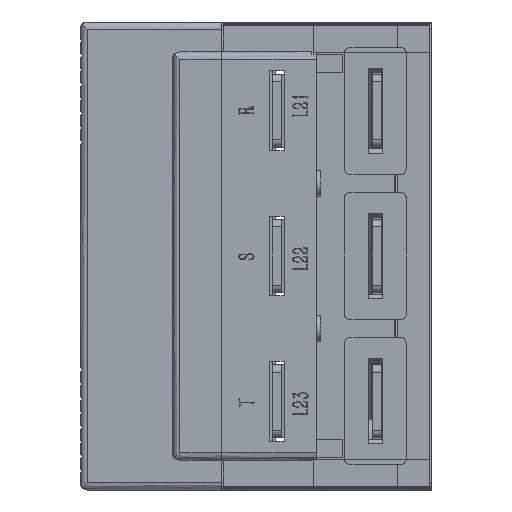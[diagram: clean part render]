
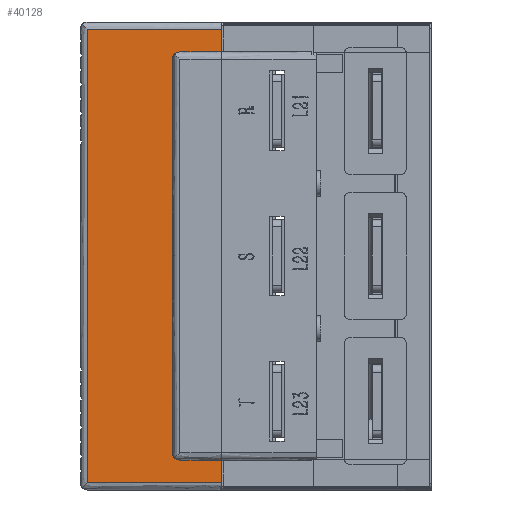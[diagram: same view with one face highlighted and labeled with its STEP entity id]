
A CAD part, left-side view. The second image highlights one B-rep face of the part: STEP entity #40128.
In plain terms, the highlighted free-form (B-spline) face has degree [1, 1] with [2, 2] control points.
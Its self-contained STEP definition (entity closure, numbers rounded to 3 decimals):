
#2814 = CARTESIAN_POINT ( 'NONE',  ( 16.5, 23., -174. ) ) ;
#3557 = CARTESIAN_POINT ( 'NONE',  ( 4., 0., -174. ) ) ;
#6722 = CARTESIAN_POINT ( 'NONE',  ( 237.5, 27., -174. ) ) ;
#8405 = CARTESIAN_POINT ( 'NONE',  ( 254., 74., -174. ) ) ;
#8713 = CARTESIAN_POINT ( 'NONE',  ( 237.5, 27., -174. ) ) ;
#8870 = EDGE_CURVE ( 'NONE', #90986, #68015, #23151, .T. ) ;
#11891 = CARTESIAN_POINT ( 'NONE',  ( 241.5, 0., -174. ) ) ;
#12903 = VERTEX_POINT ( 'NONE', #29974 ) ;
#15034 = B_SPLINE_CURVE_WITH_KNOTS ( 'NONE', 1,
 ( #61648, #11891 ),
 .UNSPECIFIED., .F., .F.,
 ( 2, 2 ),
 ( 0., 1. ),
 .UNSPECIFIED. ) ;
#15953 = EDGE_CURVE ( 'NONE', #30704, #12903, #63040, .T. ) ;
#17088 = CARTESIAN_POINT ( 'NONE',  ( 20.5, 27., -174. ) ) ;
#17854 = ORIENTED_EDGE ( 'NONE', *, *, #38567, .F. ) ;
#18997 = CARTESIAN_POINT ( 'NONE',  ( 254., 74., -174. ) ) ;
#21895 = VERTEX_POINT ( 'NONE', #35467 ) ;
#21984 = CARTESIAN_POINT ( 'NONE',  ( 4., 0., -174. ) ) ;
#23151 = B_SPLINE_CURVE_WITH_KNOTS ( 'NONE', 1,
 ( #30953, #23502 ),
 .UNSPECIFIED., .F., .F.,
 ( 2, 2 ),
 ( 0., 1. ),
 .UNSPECIFIED. ) ;
#23502 = CARTESIAN_POINT ( 'NONE',  ( 241.5, 0., -174. ) ) ;
#26345 = VERTEX_POINT ( 'NONE', #18997 ) ;
#26548 = EDGE_CURVE ( 'NONE', #26345, #33596, #29234, .T. ) ;
#26632 =( BOUNDED_CURVE ( )  B_SPLINE_CURVE ( 3, ( #8713, #51334, #37639, #87357 ),
 .UNSPECIFIED., .F., .F. ) 
 B_SPLINE_CURVE_WITH_KNOTS ( ( 4, 4 ),
 ( -1.571, 0. ),
 .UNSPECIFIED. ) 
 CURVE ( )  GEOMETRIC_REPRESENTATION_ITEM ( )  RATIONAL_B_SPLINE_CURVE ( ( 1., 0.805, 0.805, 1. ) ) 
 REPRESENTATION_ITEM ( '' )  );
#26816 = ORIENTED_EDGE ( 'NONE', *, *, #67720, .T. ) ;
#28091 = ORIENTED_EDGE ( 'NONE', *, *, #8870, .F. ) ;
#29014 = B_SPLINE_CURVE_WITH_KNOTS ( 'NONE', 1,
 ( #87404, #44877 ),
 .UNSPECIFIED., .F., .F.,
 ( 2, 2 ),
 ( 0., 1. ),
 .UNSPECIFIED. ) ;
#29168 = CARTESIAN_POINT ( 'NONE',  ( 254., 0., -174. ) ) ;
#29234 = B_SPLINE_CURVE_WITH_KNOTS ( 'NONE', 1,
 ( #8405, #72718 ),
 .UNSPECIFIED., .F., .F.,
 ( 2, 2 ),
 ( 0., 1. ),
 .UNSPECIFIED. ) ;
#29974 = CARTESIAN_POINT ( 'NONE',  ( 20.5, 27., -174. ) ) ;
#29987 = EDGE_CURVE ( 'NONE', #71458, #90986, #26632, .T. ) ;
#30704 = VERTEX_POINT ( 'NONE', #84145 ) ;
#30953 = CARTESIAN_POINT ( 'NONE',  ( 241.5, 23., -174. ) ) ;
#32757 = EDGE_CURVE ( 'NONE', #12903, #71458, #36317, .T. ) ;
#33596 = VERTEX_POINT ( 'NONE', #76307 ) ;
#35467 = CARTESIAN_POINT ( 'NONE',  ( 4., 0., -174. ) ) ;
#35790 = ORIENTED_EDGE ( 'NONE', *, *, #32757, .F. ) ;
#36317 = B_SPLINE_CURVE_WITH_KNOTS ( 'NONE', 1,
 ( #63604, #6722 ),
 .UNSPECIFIED., .F., .F.,
 ( 2, 2 ),
 ( 0., 1. ),
 .UNSPECIFIED. ) ;
#37639 = CARTESIAN_POINT ( 'NONE',  ( 241.5, 25.343, -174. ) ) ;
#38227 = CARTESIAN_POINT ( 'NONE',  ( 254., 0., -174. ) ) ;
#38567 = EDGE_CURVE ( 'NONE', #59314, #30704, #29014, .T. ) ;
#38881 = B_SPLINE_CURVE_WITH_KNOTS ( 'NONE', 1,
 ( #42571, #70460 ),
 .UNSPECIFIED., .F., .F.,
 ( 2, 2 ),
 ( 0., 1. ),
 .UNSPECIFIED. ) ;
#39005 = CARTESIAN_POINT ( 'NONE',  ( 16.5, 0., -174. ) ) ;
#40128 = ADVANCED_FACE ( 'NONE', ( #75859 ), #48877, .F. ) ;
#42571 = CARTESIAN_POINT ( 'NONE',  ( 4., 0., -174. ) ) ;
#43193 = ORIENTED_EDGE ( 'NONE', *, *, #65001, .T. ) ;
#43335 = ORIENTED_EDGE ( 'NONE', *, *, #26548, .F. ) ;
#43972 = CARTESIAN_POINT ( 'NONE',  ( 241.5, 23., -174. ) ) ;
#44877 = CARTESIAN_POINT ( 'NONE',  ( 16.5, 23., -174. ) ) ;
#46310 = VERTEX_POINT ( 'NONE', #59741 ) ;
#47569 = CARTESIAN_POINT ( 'NONE',  ( 237.5, 27., -174. ) ) ;
#48877 = B_SPLINE_SURFACE_WITH_KNOTS ( 'NONE', 1, 1, ( 
 ( #21984, #57433 ),
 ( #29168, #78845 ) ),
 .UNSPECIFIED., .F., .F., .F.,
 ( 2, 2 ),
 ( 2, 2 ),
 ( 0., 1. ),
 ( 0., 1. ),
 .UNSPECIFIED. ) ;
#50602 = B_SPLINE_CURVE_WITH_KNOTS ( 'NONE', 1,
 ( #39005, #3557 ),
 .UNSPECIFIED., .F., .F.,
 ( 2, 2 ),
 ( 0., 1. ),
 .UNSPECIFIED. ) ;
#51334 = CARTESIAN_POINT ( 'NONE',  ( 239.843, 27., -174. ) ) ;
#52556 = CARTESIAN_POINT ( 'NONE',  ( 16.5, 25.343, -174. ) ) ;
#53661 = ORIENTED_EDGE ( 'NONE', *, *, #76888, .T. ) ;
#55088 = CARTESIAN_POINT ( 'NONE',  ( 16.5, 0., -174. ) ) ;
#57433 = CARTESIAN_POINT ( 'NONE',  ( 4., 74., -174. ) ) ;
#57504 = ORIENTED_EDGE ( 'NONE', *, *, #15953, .F. ) ;
#59314 = VERTEX_POINT ( 'NONE', #55088 ) ;
#59692 = EDGE_CURVE ( 'NONE', #26345, #46310, #91101, .T. ) ;
#59705 = CARTESIAN_POINT ( 'NONE',  ( 18.157, 27., -174. ) ) ;
#59741 = CARTESIAN_POINT ( 'NONE',  ( 254., 0., -174. ) ) ;
#61648 = CARTESIAN_POINT ( 'NONE',  ( 254., 0., -174. ) ) ;
#61812 = ORIENTED_EDGE ( 'NONE', *, *, #59692, .T. ) ;
#63040 =( BOUNDED_CURVE ( )  B_SPLINE_CURVE ( 3, ( #2814, #52556, #59705, #17088 ),
 .UNSPECIFIED., .F., .F. ) 
 B_SPLINE_CURVE_WITH_KNOTS ( ( 4, 4 ),
 ( -1.571, 0. ),
 .UNSPECIFIED. ) 
 CURVE ( )  GEOMETRIC_REPRESENTATION_ITEM ( )  RATIONAL_B_SPLINE_CURVE ( ( 1., 0.805, 0.805, 1. ) ) 
 REPRESENTATION_ITEM ( '' )  );
#63604 = CARTESIAN_POINT ( 'NONE',  ( 20.5, 27., -174. ) ) ;
#65001 = EDGE_CURVE ( 'NONE', #59314, #21895, #50602, .T. ) ;
#67720 = EDGE_CURVE ( 'NONE', #46310, #68015, #15034, .T. ) ;
#68015 = VERTEX_POINT ( 'NONE', #81177 ) ;
#70460 = CARTESIAN_POINT ( 'NONE',  ( 4., 74., -174. ) ) ;
#71059 = EDGE_LOOP ( 'NONE', ( #43335, #61812, #26816, #28091, #82698, #35790, #57504, #17854, #43193, #53661 ) ) ;
#71458 = VERTEX_POINT ( 'NONE', #47569 ) ;
#72718 = CARTESIAN_POINT ( 'NONE',  ( 4., 74., -174. ) ) ;
#75859 = FACE_OUTER_BOUND ( 'NONE', #71059, .T. ) ;
#76307 = CARTESIAN_POINT ( 'NONE',  ( 4., 74., -174. ) ) ;
#76888 = EDGE_CURVE ( 'NONE', #21895, #33596, #38881, .T. ) ;
#78845 = CARTESIAN_POINT ( 'NONE',  ( 254., 74., -174. ) ) ;
#80810 = CARTESIAN_POINT ( 'NONE',  ( 254., 74., -174. ) ) ;
#81177 = CARTESIAN_POINT ( 'NONE',  ( 241.5, 0., -174. ) ) ;
#82698 = ORIENTED_EDGE ( 'NONE', *, *, #29987, .F. ) ;
#84145 = CARTESIAN_POINT ( 'NONE',  ( 16.5, 23., -174. ) ) ;
#87357 = CARTESIAN_POINT ( 'NONE',  ( 241.5, 23., -174. ) ) ;
#87404 = CARTESIAN_POINT ( 'NONE',  ( 16.5, 0., -174. ) ) ;
#90986 = VERTEX_POINT ( 'NONE', #43972 ) ;
#91101 = B_SPLINE_CURVE_WITH_KNOTS ( 'NONE', 1,
 ( #80810, #38227 ),
 .UNSPECIFIED., .F., .F.,
 ( 2, 2 ),
 ( 0., 1. ),
 .UNSPECIFIED. ) ;
